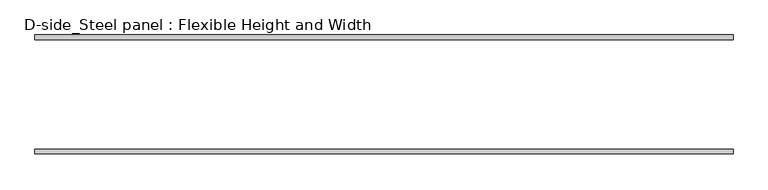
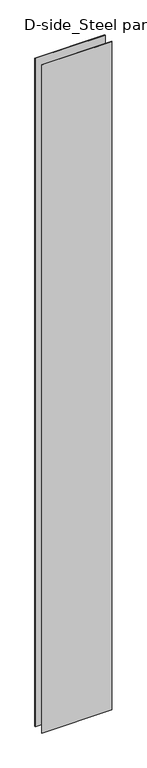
"""IFC4 building model written with IfcOpenShell, lengths in millimetres: proxy geometry, D-side_Steel panel : Flexible Height and Width."""

from ifc_helpers import new_model, si_unit, origin, origin_with_axes, place, context, project, spatial, polyline, outline, extrude, source, transform, mapped, element, save


def d_side_steel_panel_flexible_height_and_width_1fe6ad77(model_context):
    return source(origin(), model_context, "Body", "SweptSolid", [
        extrude(outline(polyline([(1487.0, -253.0), (0.0, -253.0), (0.0, -243.0), (1487.0, -243.0), (1487.0, -253.0)])), origin_with_axes(), (0.0, 0.0, 1.0), 15000.0),
        extrude(outline(polyline([(1487.0, -10.0), (0.0, -10.0), (0.0, 0.0), (1487.0, 0.0), (1487.0, -10.0)])), origin_with_axes(), (0.0, 0.0, 1.0), 15000.0),
    ])


if __name__ == "__main__":
    model = new_model("IFC4")
    model_context = context("Model", 3, world=origin())
    ifc_project = project(units=[si_unit("LENGTHUNIT", "METRE", prefix="MILLI")], contexts=[model_context])
    site = spatial("IfcSite", under=ifc_project)
    building = spatial("IfcBuilding", under=site)
    placement = place(None, origin())
    d_side_steel_panel_flexible_height_and_width_shape = d_side_steel_panel_flexible_height_and_width_1fe6ad77(model_context)
    element("IfcBuildingElementProxy", 1, Name="D-side_Steel panel : Flexible Height and Width", ObjectType="D-side_Steel panel : Flexible Height and Width", at=placement, inside=building, context=model_context, shape_type="MappedRepresentation", body=[
        mapped(d_side_steel_panel_flexible_height_and_width_shape, transform((0.0, 0.0, 0.0), x_axis=(1.0, 0.0, 0.0), y_axis=(0.0, 1.0, 0.0), z_axis=(0.0, 0.0, 1.0))),
    ])
    save(model, "model.ifc")
